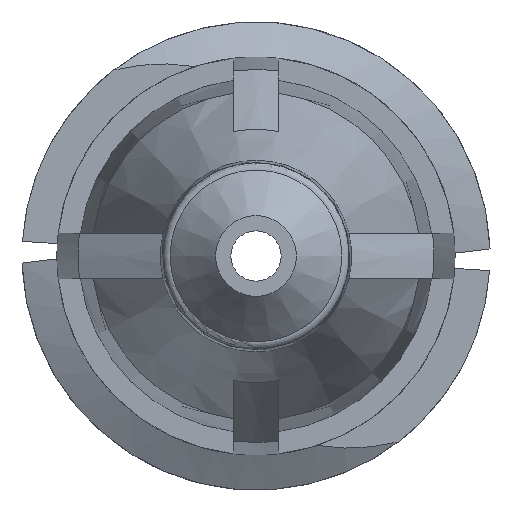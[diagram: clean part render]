
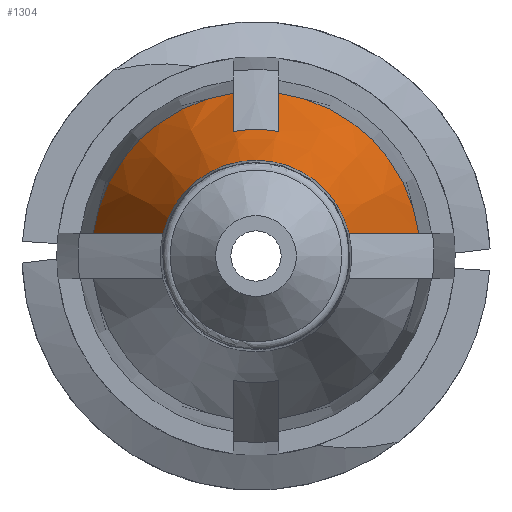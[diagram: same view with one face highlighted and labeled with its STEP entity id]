
A CAD part, front view. The second image highlights one B-rep face of the part: STEP entity #1304.
In plain terms, the highlighted conical face has half-angle 20 degrees and reference radius 2.745 mm.
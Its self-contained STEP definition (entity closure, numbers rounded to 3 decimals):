
#11 = CARTESIAN_POINT ( 'NONE',  ( 2.719, -10.312, 0.381 ) ) ;
#49 = EDGE_CURVE ( 'NONE', #1619, #1694, #776, .T. ) ;
#55 = ORIENTED_EDGE ( 'NONE', *, *, #49, .T. ) ;
#81 = CARTESIAN_POINT ( 'NONE',  ( 1.554, -13.458, 0.381 ) ) ;
#167 = ORIENTED_EDGE ( 'NONE', *, *, #348, .T. ) ;
#174 = VERTEX_POINT ( 'NONE', #1033 ) ;
#177 = CIRCLE ( 'NONE', #1175, 2.117 ) ;
#202 = ORIENTED_EDGE ( 'NONE', *, *, #1858, .F. ) ;
#213 = AXIS2_PLACEMENT_3D ( 'NONE', #2088, #1961, #1644 ) ;
#217 = CARTESIAN_POINT ( 'NONE',  ( 0., -10.312, 0. ) ) ;
#348 = EDGE_CURVE ( 'NONE', #174, #1499, #1954, .T. ) ;
#359 = CARTESIAN_POINT ( 'NONE',  ( 2.333, -11.362, 0.381 ) ) ;
#387 = CARTESIAN_POINT ( 'NONE',  ( -1.554, -13.458, 0.381 ) ) ;
#390 = EDGE_LOOP ( 'NONE', ( #202, #1512, #55, #1878, #167, #2097, #1966, #449 ) ) ;
#421 = DIRECTION ( 'NONE',  ( 0., 1., 0. ) ) ;
#429 = CIRCLE ( 'NONE', #862, 2.745 ) ;
#437 = EDGE_CURVE ( 'NONE', #1671, #2012, #1627, .T. ) ;
#449 = ORIENTED_EDGE ( 'NONE', *, *, #437, .T. ) ;
#504 = CARTESIAN_POINT ( 'NONE',  ( -2.333, -11.362, 0.381 ) ) ;
#547 = CARTESIAN_POINT ( 'NONE',  ( 0.381, -12.038, 2.082 ) ) ;
#549 = CARTESIAN_POINT ( 'NONE',  ( 0., -10.312, 0. ) ) ;
#572 = DIRECTION ( 'NONE',  ( 1., 0., 0. ) ) ;
#624 = DIRECTION ( 'NONE',  ( 0., 1., 0. ) ) ;
#626 = CARTESIAN_POINT ( 'NONE',  ( 0.381, -11.463, 2.295 ) ) ;
#629 = B_SPLINE_CURVE_WITH_KNOTS ( 'NONE', 3,
 ( #1318, #504, #1240, #920 ),
 .UNSPECIFIED., .F., .F.,
 ( 4, 4 ),
 ( 0.003, 0.007 ),
 .UNSPECIFIED. ) ;
#700 = EDGE_CURVE ( 'NONE', #1393, #1671, #629, .T. ) ;
#776 = B_SPLINE_CURVE_WITH_KNOTS ( 'NONE', 3,
 ( #1446, #963, #626, #1798 ),
 .UNSPECIFIED., .F., .F.,
 ( 4, 4 ),
 ( 0.003, 0.005 ),
 .UNSPECIFIED. ) ;
#862 = AXIS2_PLACEMENT_3D ( 'NONE', #217, #1244, #572 ) ;
#911 = CARTESIAN_POINT ( 'NONE',  ( -0.381, -11.463, 2.295 ) ) ;
#920 = CARTESIAN_POINT ( 'NONE',  ( -1.554, -13.458, 0.381 ) ) ;
#933 = DIRECTION ( 'NONE',  ( -1., 0., 0. ) ) ;
#963 = CARTESIAN_POINT ( 'NONE',  ( 0.381, -10.888, 2.507 ) ) ;
#1033 = CARTESIAN_POINT ( 'NONE',  ( -0.381, -12.038, 2.082 ) ) ;
#1057 = CARTESIAN_POINT ( 'NONE',  ( 2.719, -10.312, 0.381 ) ) ;
#1068 = CARTESIAN_POINT ( 'NONE',  ( -0.381, -10.888, 2.507 ) ) ;
#1082 = EDGE_CURVE ( 'NONE', #1619, #1273, #1250, .T. ) ;
#1102 = CARTESIAN_POINT ( 'NONE',  ( -2.719, -10.312, 0.381 ) ) ;
#1175 = AXIS2_PLACEMENT_3D ( 'NONE', #1940, #1295, #933 ) ;
#1240 = CARTESIAN_POINT ( 'NONE',  ( -1.947, -12.411, 0.381 ) ) ;
#1244 = DIRECTION ( 'NONE',  ( 0., 1., 0. ) ) ;
#1250 = CIRCLE ( 'NONE', #213, 2.745 ) ;
#1273 = VERTEX_POINT ( 'NONE', #1057 ) ;
#1282 = B_SPLINE_CURVE_WITH_KNOTS ( 'NONE', 3,
 ( #11, #359, #1662, #1650 ),
 .UNSPECIFIED., .F., .F.,
 ( 4, 4 ),
 ( 0.003, 0.007 ),
 .UNSPECIFIED. ) ;
#1295 = DIRECTION ( 'NONE',  ( 0., -1., 0. ) ) ;
#1304 = ADVANCED_FACE ( 'NONE', ( #1882 ), #2024, .T. ) ;
#1318 = CARTESIAN_POINT ( 'NONE',  ( -2.719, -10.312, 0.381 ) ) ;
#1393 = VERTEX_POINT ( 'NONE', #1102 ) ;
#1446 = CARTESIAN_POINT ( 'NONE',  ( 0.381, -10.312, 2.719 ) ) ;
#1499 = VERTEX_POINT ( 'NONE', #1762 ) ;
#1512 = ORIENTED_EDGE ( 'NONE', *, *, #1082, .F. ) ;
#1619 = VERTEX_POINT ( 'NONE', #1664 ) ;
#1625 = DIRECTION ( 'NONE',  ( 1., 0., 0. ) ) ;
#1627 = CIRCLE ( 'NONE', #2086, 1.6 ) ;
#1644 = DIRECTION ( 'NONE',  ( 1., 0., 0. ) ) ;
#1650 = CARTESIAN_POINT ( 'NONE',  ( 1.554, -13.458, 0.381 ) ) ;
#1662 = CARTESIAN_POINT ( 'NONE',  ( 1.947, -12.411, 0.381 ) ) ;
#1664 = CARTESIAN_POINT ( 'NONE',  ( 0.381, -10.312, 2.719 ) ) ;
#1668 = DIRECTION ( 'NONE',  ( 1., 0., 0. ) ) ;
#1671 = VERTEX_POINT ( 'NONE', #387 ) ;
#1694 = VERTEX_POINT ( 'NONE', #547 ) ;
#1726 = CARTESIAN_POINT ( 'NONE',  ( -0.381, -12.038, 2.082 ) ) ;
#1762 = CARTESIAN_POINT ( 'NONE',  ( -0.381, -10.312, 2.719 ) ) ;
#1798 = CARTESIAN_POINT ( 'NONE',  ( 0.381, -12.038, 2.082 ) ) ;
#1858 = EDGE_CURVE ( 'NONE', #1273, #2012, #1282, .T. ) ;
#1863 = CARTESIAN_POINT ( 'NONE',  ( -0.381, -10.312, 2.719 ) ) ;
#1878 = ORIENTED_EDGE ( 'NONE', *, *, #2072, .T. ) ;
#1882 = FACE_OUTER_BOUND ( 'NONE', #390, .T. ) ;
#1896 = EDGE_CURVE ( 'NONE', #1393, #1499, #429, .T. ) ;
#1940 = CARTESIAN_POINT ( 'NONE',  ( 0., -12.038, 0. ) ) ;
#1954 = B_SPLINE_CURVE_WITH_KNOTS ( 'NONE', 3,
 ( #1726, #911, #1068, #1863 ),
 .UNSPECIFIED., .F., .F.,
 ( 4, 4 ),
 ( 0.002, 0.004 ),
 .UNSPECIFIED. ) ;
#1961 = DIRECTION ( 'NONE',  ( 0., 1., 0. ) ) ;
#1966 = ORIENTED_EDGE ( 'NONE', *, *, #700, .T. ) ;
#2012 = VERTEX_POINT ( 'NONE', #81 ) ;
#2024 = CONICAL_SURFACE ( 'NONE', #2077, 2.745, 0.349 ) ;
#2062 = CARTESIAN_POINT ( 'NONE',  ( 0., -13.458, 0. ) ) ;
#2072 = EDGE_CURVE ( 'NONE', #1694, #174, #177, .T. ) ;
#2077 = AXIS2_PLACEMENT_3D ( 'NONE', #549, #421, #1668 ) ;
#2086 = AXIS2_PLACEMENT_3D ( 'NONE', #2062, #624, #1625 ) ;
#2088 = CARTESIAN_POINT ( 'NONE',  ( 0., -10.312, 0. ) ) ;
#2097 = ORIENTED_EDGE ( 'NONE', *, *, #1896, .F. ) ;
